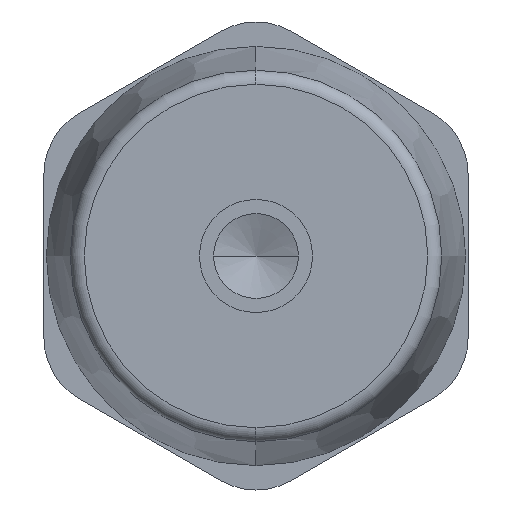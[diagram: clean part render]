
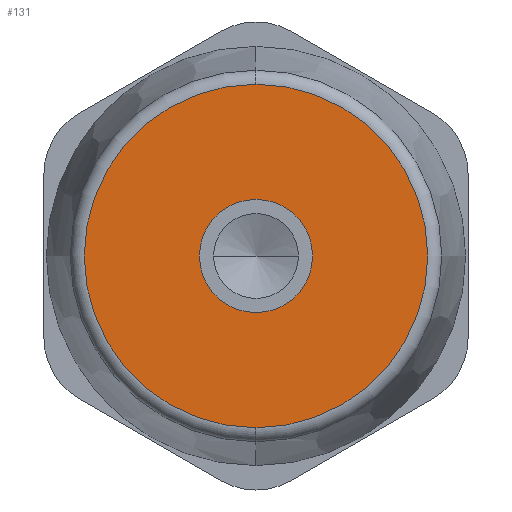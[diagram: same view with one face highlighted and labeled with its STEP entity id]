
A CAD part, front view. The second image highlights one B-rep face of the part: STEP entity #131.
In plain terms, the highlighted planar face has unit normal (0, -1, 0).
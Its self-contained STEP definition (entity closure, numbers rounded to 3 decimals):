
#4 = DIRECTION ( 'NONE',  ( 0., 0., 1. ) ) ;
#42 = EDGE_CURVE ( 'NONE', #1803, #501, #1314, .T. ) ;
#63 = PLANE ( 'NONE',  #518 ) ;
#97 = EDGE_CURVE ( 'NONE', #117, #1708, #975, .T. ) ;
#117 = VERTEX_POINT ( 'NONE', #530 ) ;
#127 = DIRECTION ( 'NONE',  ( -1., 0., 0. ) ) ;
#131 = ADVANCED_FACE ( 'NONE', ( #1166, #1807 ), #63, .F. ) ;
#187 = CARTESIAN_POINT ( 'NONE',  ( 0., 0., 12.146 ) ) ;
#382 = DIRECTION ( 'NONE',  ( -1., 0., 0. ) ) ;
#501 = VERTEX_POINT ( 'NONE', #1632 ) ;
#504 = CIRCLE ( 'NONE', #1677, 12.146 ) ;
#518 = AXIS2_PLACEMENT_3D ( 'NONE', #1985, #543, #1662 ) ;
#530 = CARTESIAN_POINT ( 'NONE',  ( 0., 0., -12.146 ) ) ;
#543 = DIRECTION ( 'NONE',  ( 0., 1., 0. ) ) ;
#609 = DIRECTION ( 'NONE',  ( 0., 1., 0. ) ) ;
#650 = DIRECTION ( 'NONE',  ( 0., -1., 0. ) ) ;
#683 = CARTESIAN_POINT ( 'NONE',  ( 0., 0., 0. ) ) ;
#786 = CARTESIAN_POINT ( 'NONE',  ( 0., 0., 0. ) ) ;
#844 = DIRECTION ( 'NONE',  ( 0., 1., 0. ) ) ;
#975 = CIRCLE ( 'NONE', #1419, 12.146 ) ;
#1048 = AXIS2_PLACEMENT_3D ( 'NONE', #683, #844, #382 ) ;
#1051 = CIRCLE ( 'NONE', #1392, 4. ) ;
#1061 = ORIENTED_EDGE ( 'NONE', *, *, #1914, .T. ) ;
#1166 = FACE_BOUND ( 'NONE', #1631, .T. ) ;
#1314 = CIRCLE ( 'NONE', #1048, 4. ) ;
#1392 = AXIS2_PLACEMENT_3D ( 'NONE', #786, #609, #127 ) ;
#1419 = AXIS2_PLACEMENT_3D ( 'NONE', #1847, #1519, #1972 ) ;
#1440 = EDGE_CURVE ( 'NONE', #1708, #117, #504, .T. ) ;
#1519 = DIRECTION ( 'NONE',  ( 0., -1., 0. ) ) ;
#1544 = ORIENTED_EDGE ( 'NONE', *, *, #1440, .T. ) ;
#1602 = ORIENTED_EDGE ( 'NONE', *, *, #42, .T. ) ;
#1631 = EDGE_LOOP ( 'NONE', ( #1061, #1602 ) ) ;
#1632 = CARTESIAN_POINT ( 'NONE',  ( -4., 0., 0. ) ) ;
#1644 = EDGE_LOOP ( 'NONE', ( #1544, #1959 ) ) ;
#1662 = DIRECTION ( 'NONE',  ( 0., 0., 1. ) ) ;
#1677 = AXIS2_PLACEMENT_3D ( 'NONE', #1695, #650, #4 ) ;
#1695 = CARTESIAN_POINT ( 'NONE',  ( 0., 0., 0. ) ) ;
#1708 = VERTEX_POINT ( 'NONE', #187 ) ;
#1803 = VERTEX_POINT ( 'NONE', #1881 ) ;
#1807 = FACE_OUTER_BOUND ( 'NONE', #1644, .T. ) ;
#1847 = CARTESIAN_POINT ( 'NONE',  ( 0., 0., 0. ) ) ;
#1881 = CARTESIAN_POINT ( 'NONE',  ( 4., 0., 0. ) ) ;
#1914 = EDGE_CURVE ( 'NONE', #501, #1803, #1051, .T. ) ;
#1959 = ORIENTED_EDGE ( 'NONE', *, *, #97, .T. ) ;
#1972 = DIRECTION ( 'NONE',  ( 0., 0., 1. ) ) ;
#1985 = CARTESIAN_POINT ( 'NONE',  ( 15., 0., -8.66 ) ) ;
